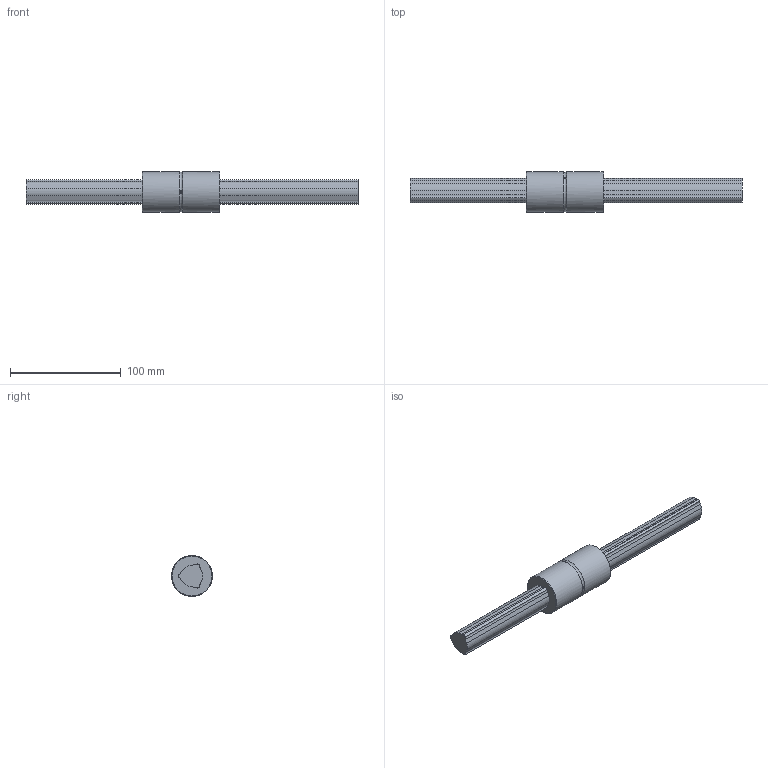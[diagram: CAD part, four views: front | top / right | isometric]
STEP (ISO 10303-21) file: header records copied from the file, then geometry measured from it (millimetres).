
FILE_DESCRIPTION(/* description */ ('STEP AP214'),/* implementation_level */ '2;1');
FILE_NAME(/* name */ 'LBST25+300L(701050)',/* time_stamp */ '2024-09-04T12:53:50+02:00',/* author */ ('License CC BY-ND 4.0'),/* organization */ ('CADENAS'),/* preprocessor_version */ 'ST-DEVELOPER v19.3',/* originating_system */ 'PARTsolutions',/* authorisation */ ' ');
FILE_SCHEMA (('AUTOMOTIVE_DESIGN {1 0 10303 214 3 1 1}'));
Length unit declared in the file: millimetre
Products named in the file (3): LBST25+300L(701050); LBST251300 Spline Shaft; LBST25 Nut
Assembly tree (2 placements, depth 2):
  LBST25+300L(701050)
    LBST251300 Spline Shaft
    LBST25 Nut
Bounding box: 300 x 37 x 37 mm (x, y, z)
Volume: 151380.4 mm3; surface area: 36913.6 mm2
Topology: 2 solids, 2 shells, 56 faces, 148 edges, 99 vertices
Faces by surface type: cylinder 31, plane 22, torus 3
Full cylindrical faces by diameter (mm): 2 x3, 37 x2
Entity records: 1798 total; most frequent: CARTESIAN_POINT 343, DIRECTION 306, ORIENTED_EDGE 272, EDGE_CURVE 136, AXIS2_PLACEMENT_3D 118, VERTEX_POINT 94, LINE 70, VECTOR 70
